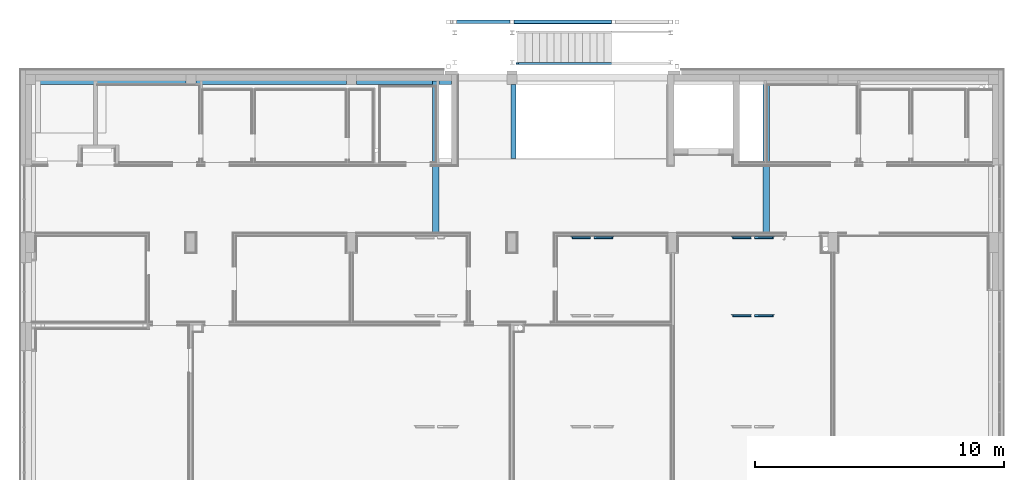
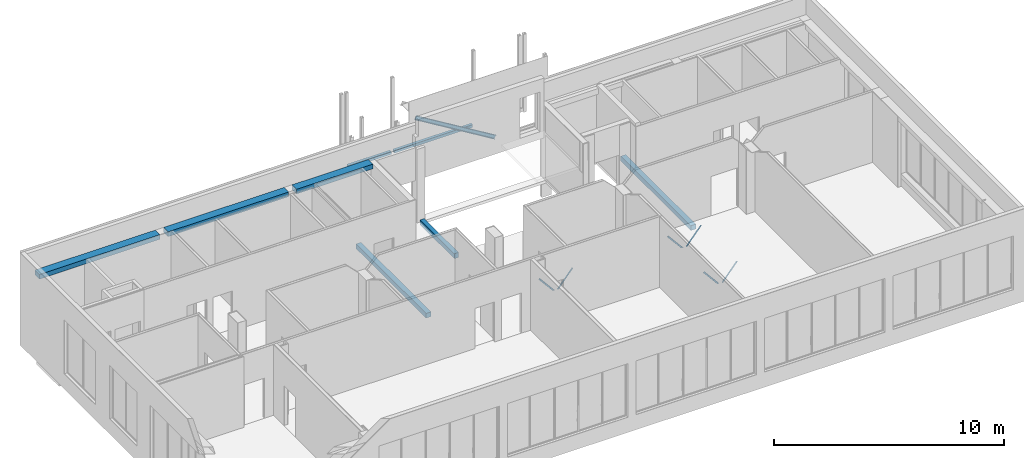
# One storey, part 9 of 29: 16 beams.
"""IFC2X3 building model written with IfcOpenShell, lengths in centimetres."""

from ifc_helpers import new_model, entity, si_unit, converted_unit, derived_unit, direction, frame, frame_2d, origin, origin_2d_with_axis, place, context, subcontext, project, spatial, polyline, circle_curve, parameter, trimmed, segment, composite_curve, rectangle, outline, extrude, clip, halfspace, material, type_object, element, save


model = new_model("IFC2X3")

# Units and contexts
model_context = context("Model", 3, precision=0.001, world=origin(), true_north=direction((6.12303176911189e-17, 1.0)))
body_context = subcontext(model_context, "Body", "Model", "MODEL_VIEW")
ifc_project = project(units=[si_unit("LENGTHUNIT", "METRE", prefix="CENTI"), si_unit("AREAUNIT", "SQUARE_METRE"), si_unit("VOLUMEUNIT", "CUBIC_METRE"), converted_unit("PLANEANGLEUNIT", "DEGREE", entity("IfcRatioMeasure", 0.0174532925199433), si_unit("PLANEANGLEUNIT", "RADIAN"), dimensions=[0, 0, 0, 0, 0, 0, 0]), si_unit("MASSUNIT", "GRAM", prefix="KILO"), derived_unit("MASSDENSITYUNIT", [(si_unit("MASSUNIT", "GRAM", prefix="KILO"), 1), (si_unit("LENGTHUNIT", "METRE"), -3)]), derived_unit("MOMENTOFINERTIAUNIT", [(si_unit("LENGTHUNIT", "METRE"), 4)]), si_unit("TIMEUNIT", "SECOND"), si_unit("FREQUENCYUNIT", "HERTZ"), si_unit("THERMODYNAMICTEMPERATUREUNIT", "DEGREE_CELSIUS"), derived_unit("THERMALTRANSMITTANCEUNIT", [(si_unit("MASSUNIT", "GRAM", prefix="KILO"), 1), (si_unit("THERMODYNAMICTEMPERATUREUNIT", "KELVIN"), -1), (si_unit("TIMEUNIT", "SECOND"), -3)]), derived_unit("VOLUMETRICFLOWRATEUNIT", [(si_unit("LENGTHUNIT", "METRE"), 3), (si_unit("TIMEUNIT", "SECOND"), -1)]), si_unit("ELECTRICCURRENTUNIT", "AMPERE"), si_unit("ELECTRICVOLTAGEUNIT", "VOLT"), si_unit("POWERUNIT", "WATT"), si_unit("FORCEUNIT", "NEWTON", prefix="KILO"), si_unit("ILLUMINANCEUNIT", "LUX"), si_unit("LUMINOUSFLUXUNIT", "LUMEN"), si_unit("LUMINOUSINTENSITYUNIT", "CANDELA"), derived_unit("USERDEFINED", [(si_unit("MASSUNIT", "GRAM", prefix="KILO"), -1), (si_unit("LENGTHUNIT", "METRE"), -2), (si_unit("TIMEUNIT", "SECOND"), 3), (si_unit("LUMINOUSFLUXUNIT", "LUMEN"), 1)]), derived_unit("LINEARVELOCITYUNIT", [(si_unit("LENGTHUNIT", "METRE"), 1), (si_unit("TIMEUNIT", "SECOND"), -1)]), si_unit("PRESSUREUNIT", "PASCAL"), derived_unit("USERDEFINED", [(si_unit("LENGTHUNIT", "METRE"), -2), (si_unit("MASSUNIT", "GRAM", prefix="KILO"), 1), (si_unit("TIMEUNIT", "SECOND"), -2)]), derived_unit("LINEARFORCEUNIT", [(si_unit("MASSUNIT", "GRAM", prefix="KILO"), 1), (si_unit("LENGTHUNIT", "METRE"), 1), (si_unit("TIMEUNIT", "SECOND"), -2), (si_unit("LENGTHUNIT", "METRE"), -1)]), derived_unit("PLANARFORCEUNIT", [(si_unit("MASSUNIT", "GRAM", prefix="KILO"), 1), (si_unit("LENGTHUNIT", "METRE"), 1), (si_unit("TIMEUNIT", "SECOND"), -2), (si_unit("LENGTHUNIT", "METRE"), -2)])], contexts=[model_context])

# Site, building, storey
site_placement = place(None, origin())
site = spatial("IfcSite", under=ifc_project, at=site_placement, Name="Default", CompositionType="ELEMENT")
building_placement = place(site_placement, origin())
building = spatial("IfcBuilding", under=site, at=building_placement, CompositionType="ELEMENT")
storey_placement = place(building_placement, frame((0.0, 0.0, 545.0)))
storey = spatial("IfcBuildingStorey", under=building, at=storey_placement, Name="Poziom 1K +5,45", CompositionType="ELEMENT", Elevation=544.999999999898)

# Beams
ifc_material_1 = material(Name="_Beton C30/37")
beam_type_1 = type_object("IfcBeamType", Name="Beton-belka prostokątna:BELKA 40x30", PredefinedType="NOTDEFINED")
beam_1_placement = place(storey_placement, frame((-2894.26510369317, 2085.12745208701, 380.0)))
element("IfcBeam", 1, at=beam_1_placement, inside=storey, type_object=beam_type_1, material=ifc_material_1, Name="Beton-belka prostokątna:BELKA 40x30", ObjectType="Beton-belka prostokątna:BELKA 40x30", context=body_context, shape_type="SweptSolid", body=[
    extrude(rectangle(XDim=25.0000000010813, YDim=40.0000000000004, at=frame_2d((-5.41788836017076e-14, -4.33431068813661e-13), x_axis=(1.0, 0.0))), frame((0.0, 0.0, -2.49999999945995), z_axis=(1.0, 0.0, 0.0), x_axis=(0.0, 0.0, -1.0)), (0.0, 0.0, 1.0), 604.999994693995),
])
beam_2_placement = place(storey_placement, frame((-2269.26510611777, 2085.127452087, 380.0)))
element("IfcBeam", 2, at=beam_2_placement, inside=storey, type_object=beam_type_1, material=ifc_material_1, Name="Beton-belka prostokątna:BELKA 40x30", ObjectType="Beton-belka prostokątna:BELKA 40x30", context=body_context, shape_type="SweptSolid", body=[
    extrude(rectangle(XDim=25.0000000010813, YDim=40.0000000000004, at=frame_2d((-5.41788836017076e-14, -4.33431068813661e-13), x_axis=(1.0, 0.0))), frame((19.9999971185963, 0.0, -2.49999999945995), z_axis=(1.0, 0.0, 0.0), x_axis=(0.0, 0.0, -1.0)), (0.0, 0.0, 1.0), 605.000000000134),
])
beam_3_placement = place(storey_placement, frame((-1624.26510611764, 2085.127452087, 380.0)))
element("IfcBeam", 3, at=beam_3_placement, inside=storey, type_object=beam_type_1, material=ifc_material_1, Name="Beton-belka prostokątna:BELKA 40x30", ObjectType="Beton-belka prostokątna:BELKA 40x30", context=body_context, shape_type="SweptSolid", body=[
    extrude(rectangle(XDim=25.0000000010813, YDim=40.0000000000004, at=frame_2d((-5.41788836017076e-14, -4.33431068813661e-13), x_axis=(1.0, 0.0))), frame((19.9999971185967, 0.0, -2.49999999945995), z_axis=(1.0, 0.0, 0.0), x_axis=(0.0, 0.0, -1.0)), (0.0, 0.0, 1.0), 382.50001546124),
])
beam_type_2 = type_object("IfcBeamType", Name="Beton-belka prostokątna:BELKA 25x40", PredefinedType="NOTDEFINED")
beam_4_placement = place(storey_placement, frame((-1272.76510455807, 2092.62745206, 0.0), z_axis=(0.0, 0.0, 1.0), x_axis=(0.0, -1.0, 0.0)))
element("IfcBeam", 4, at=beam_4_placement, inside=storey, type_object=beam_type_2, material=ifc_material_1, Name="Beton-belka prostokątna:BELKA 25x40", ObjectType="Beton-belka prostokątna:BELKA 25x40", context=body_context, shape_type="SweptSolid", body=[
    extrude(rectangle(XDim=24.9999999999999, YDim=25.0000000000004, at=origin_2d_with_axis()), frame((13.7700000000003, -12.5, -27.5), z_axis=(1.0, 0.0, 0.0), x_axis=(0.0, 0.0, -1.0)), (0.0, 0.0, 1.0), 608.729999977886),
])
beam_5_placement = place(storey_placement, frame((57.2348954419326, 2092.62745061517, 0.0), z_axis=(0.0, 0.0, 1.0), x_axis=(0.0, -1.0, 0.0)))
element("IfcBeam", 5, at=beam_5_placement, inside=storey, type_object=beam_type_2, material=ifc_material_1, Name="Beton-belka prostokątna:BELKA 25x40", ObjectType="Beton-belka prostokątna:BELKA 25x40", context=body_context, shape_type="SweptSolid", body=[
    extrude(rectangle(XDim=24.9999999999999, YDim=25.0000000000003, at=origin_2d_with_axis()), frame((12.4999999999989, -14.500006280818, -27.5), z_axis=(1.0, 0.0, 0.0), x_axis=(0.0, 0.0, -1.0)), (0.0, 0.0, 1.0), 609.99999853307),
])
ifc_material_2 = material(Name="Stal konstrukcyjna - S235")
beam_type_3 = type_object("IfcBeamType", Name="Równoramienne L:L80x8", PredefinedType="NOTDEFINED")
beam_6_placement = place(storey_placement, frame((-92.5326190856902, 1138.86744980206, -13.5446969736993), z_axis=(0.765076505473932, 0.0, 0.64393939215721), x_axis=(0.64393939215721, 0.0, -0.765076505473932)))
element("IfcBeam", 6, at=beam_6_placement, inside=storey, type_object=beam_type_3, material=ifc_material_2, Name="Równoramienne L:L80x8", ObjectType="Równoramienne L:L80x8", context=body_context, shape_type="SweptSolid", body=[
    clip(extrude(outline(composite_curve([segment(polyline([(-3.02222222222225, -4.97777777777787), (-2.72222222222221, -4.97777777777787)]), True, "CONTINUOUS"), segment(trimmed(circle_curve(frame_2d((-2.72222222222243, -4.47777777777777), x_axis=(0.0, -1.0)), 0.500000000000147), [parameter(0.0)], [parameter(89.9999999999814)], True, "PARAMETER"), True, "CONTINUOUS"), segment(polyline([(-2.22222222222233, -4.47777777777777), (-2.22222222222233, 1.22222222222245)]), True, "CONTINUOUS"), segment(trimmed(circle_curve(frame_2d((-1.22222222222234, 1.22222222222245), x_axis=(-1.0, 0.0)), 0.999999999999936), [parameter(269.999999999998)], [parameter(0.0)], True, "PARAMETER"), False, "CONTINUOUS"), segment(polyline([(-1.22222222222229, 2.22222222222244), (4.47777777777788, 2.22222222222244)]), True, "CONTINUOUS"), segment(trimmed(circle_curve(frame_2d((4.47777777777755, 2.72222222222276), x_axis=(0.0, -1.0)), 0.500000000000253), [parameter(0.0)], [parameter(89.9999999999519)], True, "PARAMETER"), True, "CONTINUOUS"), segment(polyline([(4.97777777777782, 2.72222222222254), (4.97777777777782, 3.02222222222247)]), True, "CONTINUOUS"), segment(polyline([(4.97777777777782, 3.02222222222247), (-3.02222222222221, 3.02222222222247)]), True, "CONTINUOUS"), segment(polyline([(-3.02222222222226, 3.02222222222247), (-3.02222222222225, -4.97777777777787)]), True, "CONTINUOUS")], self_intersect=False)), frame((0.00135307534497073, -0.76222222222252, -3.0222222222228), z_axis=(1.0, 0.0, 0.0), x_axis=(0.0, 0.0, -1.0)), (0.0, 0.0, 1.0), 114.44), halfspace(frame((117.712807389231, -845.739997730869, 0.937976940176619), z_axis=(0.765076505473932, 0.0, -0.64393939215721), x_axis=(0.0, 1.0, 0.0)), False)),
])
beam_7_placement = place(storey_placement, frame((-737.532637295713, 1451.86745207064, -13.5446969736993), z_axis=(0.765076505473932, 0.0, 0.64393939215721), x_axis=(0.64393939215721, 0.0, -0.765076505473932)))
element("IfcBeam", 7, at=beam_7_placement, inside=storey, type_object=beam_type_3, material=ifc_material_2, Name="Równoramienne L:L80x8", ObjectType="Równoramienne L:L80x8", context=body_context, shape_type="SweptSolid", body=[
    clip(extrude(outline(composite_curve([segment(polyline([(-3.02222222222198, -4.97777777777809), (-2.72222222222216, -4.97777777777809)]), True, "CONTINUOUS"), segment(trimmed(circle_curve(frame_2d((-2.72222222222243, -4.47777777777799), x_axis=(0.0, -1.0)), 0.500000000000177), [parameter(0.0)], [parameter(89.9999999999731)], True, "PARAMETER"), True, "CONTINUOUS"), segment(polyline([(-2.22222222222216, -4.47777777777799), (-2.22222222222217, 1.22222222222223)]), True, "CONTINUOUS"), segment(trimmed(circle_curve(frame_2d((-1.22222222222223, 1.22222222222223), x_axis=(-1.0, 0.0)), 0.999999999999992), [parameter(270.0)], [parameter(0.0)], True, "PARAMETER"), False, "CONTINUOUS"), segment(polyline([(-1.22222222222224, 2.22222222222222), (4.47777777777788, 2.22222222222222)]), True, "CONTINUOUS"), segment(trimmed(circle_curve(frame_2d((4.47777777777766, 2.72222222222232), x_axis=(0.0, -1.0)), 0.500000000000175), [parameter(0.0)], [parameter(89.9999999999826)], True, "PARAMETER"), True, "CONTINUOUS"), segment(polyline([(4.97777777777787, 2.72222222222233), (4.97777777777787, 3.02222222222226)]), True, "CONTINUOUS"), segment(polyline([(4.97777777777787, 3.02222222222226), (-3.02222222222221, 3.02222222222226)]), True, "CONTINUOUS"), segment(polyline([(-3.02222222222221, 3.02222222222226), (-3.0222222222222, -4.97777777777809)]), True, "CONTINUOUS")], self_intersect=False)), frame((0.00135307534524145, -0.762222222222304, -3.02222222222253), z_axis=(1.0, 0.0, 0.0), x_axis=(0.0, 0.0, -1.0)), (0.0, 0.0, 1.0), 114.44), halfspace(frame((117.712807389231, -1158.73999999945, 0.937976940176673), z_axis=(0.765076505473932, 0.0, -0.64393939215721), x_axis=(0.0, 1.0, 0.0)), False)),
])
beam_8_placement = place(storey_placement, frame((-92.5326190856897, 1451.86745207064, -13.5446969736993), z_axis=(0.765076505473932, 0.0, 0.64393939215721), x_axis=(0.64393939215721, 0.0, -0.765076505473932)))
element("IfcBeam", 8, at=beam_8_placement, inside=storey, type_object=beam_type_3, material=ifc_material_2, Name="Równoramienne L:L80x8", ObjectType="Równoramienne L:L80x8", context=body_context, shape_type="SweptSolid", body=[
    clip(extrude(outline(composite_curve([segment(polyline([(-3.02222222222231, -4.97777777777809), (-2.72222222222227, -4.97777777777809)]), True, "CONTINUOUS"), segment(trimmed(circle_curve(frame_2d((-2.72222222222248, -4.47777777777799), x_axis=(0.0, -1.0)), 0.500000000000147), [parameter(0.0)], [parameter(89.9999999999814)], True, "PARAMETER"), True, "CONTINUOUS"), segment(polyline([(-2.22222222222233, -4.47777777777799), (-2.22222222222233, 1.22222222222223)]), True, "CONTINUOUS"), segment(trimmed(circle_curve(frame_2d((-1.2222222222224, 1.22222222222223), x_axis=(-1.0, 0.0)), 0.999999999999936), [parameter(269.999999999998)], [parameter(0.0)], True, "PARAMETER"), False, "CONTINUOUS"), segment(polyline([(-1.22222222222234, 2.22222222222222), (4.47777777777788, 2.22222222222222)]), True, "CONTINUOUS"), segment(trimmed(circle_curve(frame_2d((4.4777777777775, 2.72222222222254), x_axis=(0.0, -1.0)), 0.500000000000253), [parameter(0.0)], [parameter(89.9999999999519)], True, "PARAMETER"), True, "CONTINUOUS"), segment(polyline([(4.97777777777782, 2.72222222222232), (4.97777777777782, 3.02222222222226)]), True, "CONTINUOUS"), segment(polyline([(4.97777777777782, 3.02222222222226), (-3.02222222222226, 3.02222222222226)]), True, "CONTINUOUS"), segment(polyline([(-3.02222222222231, 3.02222222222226), (-3.02222222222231, -4.97777777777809)]), True, "CONTINUOUS")], self_intersect=False)), frame((0.00135307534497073, -0.762222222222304, -3.0222222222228), z_axis=(1.0, 0.0, 0.0), x_axis=(0.0, 0.0, -1.0)), (0.0, 0.0, 1.0), 114.44), halfspace(frame((117.712807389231, -1158.73999999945, 0.937976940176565), z_axis=(0.765076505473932, 0.0, -0.64393939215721), x_axis=(0.0, 1.0, 0.0)), False)),
])
beam_9_placement = place(storey_placement, frame((69.0024564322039, 1138.62765760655, -13.5446969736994), z_axis=(0.765076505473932, 0.0, -0.64393939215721), x_axis=(-0.64393939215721, 0.0, -0.765076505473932)))
element("IfcBeam", 9, at=beam_9_placement, inside=storey, type_object=beam_type_3, material=ifc_material_2, Name="Równoramienne L:L80x8", ObjectType="Równoramienne L:L80x8", context=body_context, shape_type="SweptSolid", body=[
    clip(extrude(outline(composite_curve([segment(polyline([(2.72222222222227, -4.97777777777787), (3.0222222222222, -4.97777777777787)]), True, "CONTINUOUS"), segment(polyline([(3.02222222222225, -4.97777777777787), (3.02222222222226, 3.02222222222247)]), True, "CONTINUOUS"), segment(polyline([(3.02222222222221, 3.02222222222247), (-4.97777777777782, 3.02222222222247)]), True, "CONTINUOUS"), segment(polyline([(-4.97777777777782, 3.02222222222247), (-4.97777777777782, 2.72222222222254)]), True, "CONTINUOUS"), segment(trimmed(circle_curve(frame_2d((-4.4777777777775, 2.72222222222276), x_axis=(-1.0, 0.0)), 0.500000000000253), [parameter(0.0)], [parameter(89.9999999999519)], True, "PARAMETER"), True, "CONTINUOUS"), segment(polyline([(-4.47777777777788, 2.22222222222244), (1.22222222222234, 2.22222222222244)]), True, "CONTINUOUS"), segment(trimmed(circle_curve(frame_2d((1.2222222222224, 1.22222222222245), x_axis=(0.0, 1.0)), 0.999999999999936), [parameter(269.999999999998)], [parameter(0.0)], True, "PARAMETER"), False, "CONTINUOUS"), segment(polyline([(2.22222222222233, 1.22222222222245), (2.22222222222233, -4.47777777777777)]), True, "CONTINUOUS"), segment(trimmed(circle_curve(frame_2d((2.72222222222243, -4.47777777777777), x_axis=(-1.0, 0.0)), 0.500000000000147), [parameter(0.0)], [parameter(89.9999999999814)], True, "PARAMETER"), True, "CONTINUOUS")], self_intersect=False)), frame((0.00135307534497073, -0.76222222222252, 3.0222222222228), z_axis=(1.0, 0.0, 0.0), x_axis=(0.0, 0.0, -1.0)), (0.0, 0.0, 1.0), 114.44), halfspace(frame((109.985534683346, -845.500205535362, 8.24294112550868), z_axis=(0.765076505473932, 0.0, 0.64393939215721), x_axis=(0.0, 1.0, 0.0)), False)),
])
beam_10_placement = place(storey_placement, frame((69.0024564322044, 1451.86745207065, -13.5446969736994), z_axis=(0.765076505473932, 0.0, -0.64393939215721), x_axis=(-0.64393939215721, 0.0, -0.765076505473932)))
element("IfcBeam", 10, at=beam_10_placement, inside=storey, type_object=beam_type_3, material=ifc_material_2, Name="Równoramienne L:L80x8", ObjectType="Równoramienne L:L80x8", context=body_context, shape_type="SweptSolid", body=[
    extrude(outline(composite_curve([segment(polyline([(2.72222222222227, -4.97777777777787), (3.0222222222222, -4.97777777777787)]), True, "CONTINUOUS"), segment(polyline([(3.02222222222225, -4.97777777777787), (3.02222222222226, 3.02222222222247)]), True, "CONTINUOUS"), segment(polyline([(3.02222222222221, 3.02222222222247), (-4.97777777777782, 3.02222222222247)]), True, "CONTINUOUS"), segment(polyline([(-4.97777777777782, 3.02222222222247), (-4.97777777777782, 2.72222222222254)]), True, "CONTINUOUS"), segment(trimmed(circle_curve(frame_2d((-4.4777777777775, 2.72222222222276), x_axis=(-1.0, 0.0)), 0.500000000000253), [parameter(0.0)], [parameter(89.9999999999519)], True, "PARAMETER"), True, "CONTINUOUS"), segment(polyline([(-4.47777777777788, 2.22222222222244), (1.22222222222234, 2.22222222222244)]), True, "CONTINUOUS"), segment(trimmed(circle_curve(frame_2d((1.2222222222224, 1.22222222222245), x_axis=(0.0, 1.0)), 0.999999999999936), [parameter(269.999999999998)], [parameter(0.0)], True, "PARAMETER"), False, "CONTINUOUS"), segment(polyline([(2.22222222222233, 1.22222222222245), (2.22222222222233, -4.47777777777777)]), True, "CONTINUOUS"), segment(trimmed(circle_curve(frame_2d((2.72222222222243, -4.47777777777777), x_axis=(-1.0, 0.0)), 0.500000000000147), [parameter(0.0)], [parameter(89.9999999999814)], True, "PARAMETER"), True, "CONTINUOUS")], self_intersect=False)), frame((0.00135307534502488, -0.76222222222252, 3.0222222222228), z_axis=(1.0, 0.0, 0.0), x_axis=(0.0, 0.0, -1.0)), (0.0, 0.0, 1.0), 114.44),
])
beam_11_placement = place(storey_placement, frame((69.0024564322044, 1451.86745207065, -13.5446969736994), z_axis=(0.765076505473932, 0.0, -0.64393939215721), x_axis=(-0.64393939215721, 0.0, -0.765076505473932)))
element("IfcBeam", 11, at=beam_11_placement, inside=storey, type_object=beam_type_3, material=ifc_material_2, Name="Równoramienne L:L80x8", ObjectType="Równoramienne L:L80x8", context=body_context, shape_type="SweptSolid", body=[
    clip(extrude(outline(composite_curve([segment(polyline([(2.72222222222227, -4.97777777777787), (3.0222222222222, -4.97777777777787)]), True, "CONTINUOUS"), segment(polyline([(3.02222222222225, -4.97777777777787), (3.02222222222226, 3.02222222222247)]), True, "CONTINUOUS"), segment(polyline([(3.02222222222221, 3.02222222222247), (-4.97777777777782, 3.02222222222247)]), True, "CONTINUOUS"), segment(polyline([(-4.97777777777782, 3.02222222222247), (-4.97777777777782, 2.72222222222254)]), True, "CONTINUOUS"), segment(trimmed(circle_curve(frame_2d((-4.4777777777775, 2.72222222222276), x_axis=(-1.0, 0.0)), 0.500000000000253), [parameter(0.0)], [parameter(89.9999999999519)], True, "PARAMETER"), True, "CONTINUOUS"), segment(polyline([(-4.47777777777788, 2.22222222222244), (1.22222222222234, 2.22222222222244)]), True, "CONTINUOUS"), segment(trimmed(circle_curve(frame_2d((1.2222222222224, 1.22222222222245), x_axis=(0.0, 1.0)), 0.999999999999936), [parameter(269.999999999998)], [parameter(0.0)], True, "PARAMETER"), False, "CONTINUOUS"), segment(polyline([(2.22222222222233, 1.22222222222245), (2.22222222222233, -4.47777777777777)]), True, "CONTINUOUS"), segment(trimmed(circle_curve(frame_2d((2.72222222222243, -4.47777777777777), x_axis=(-1.0, 0.0)), 0.500000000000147), [parameter(0.0)], [parameter(89.9999999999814)], True, "PARAMETER"), True, "CONTINUOUS")], self_intersect=False)), frame((0.00135307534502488, -0.76222222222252, 3.0222222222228), z_axis=(1.0, 0.0, 0.0), x_axis=(0.0, 0.0, -1.0)), (0.0, 0.0, 1.0), 114.44), halfspace(frame((109.985534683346, -1158.73999999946, 8.24294112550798), z_axis=(0.765076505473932, 0.0, 0.64393939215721), x_axis=(0.0, 1.0, 0.0)), False)),
])
beam_12_placement = place(storey_placement, frame((-575.997561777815, 1451.86745207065, -13.5446969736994), z_axis=(0.765076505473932, 0.0, -0.64393939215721), x_axis=(-0.64393939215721, 0.0, -0.765076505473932)))
element("IfcBeam", 12, at=beam_12_placement, inside=storey, type_object=beam_type_3, material=ifc_material_2, Name="Równoramienne L:L80x8", ObjectType="Równoramienne L:L80x8", context=body_context, shape_type="SweptSolid", body=[
    clip(extrude(outline(composite_curve([segment(polyline([(2.72222222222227, -4.97777777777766), (3.0222222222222, -4.97777777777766)]), True, "CONTINUOUS"), segment(polyline([(3.02222222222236, -4.97777777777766), (3.02222222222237, 3.02222222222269)]), True, "CONTINUOUS"), segment(polyline([(3.02222222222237, 3.02222222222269), (-4.97777777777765, 3.02222222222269)]), True, "CONTINUOUS"), segment(polyline([(-4.97777777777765, 3.02222222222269), (-4.97777777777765, 2.72222222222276)]), True, "CONTINUOUS"), segment(trimmed(circle_curve(frame_2d((-4.47777777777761, 2.72222222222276), x_axis=(-1.0, 0.0)), 0.500000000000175), [parameter(0.0)], [parameter(89.9999999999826)], True, "PARAMETER"), True, "CONTINUOUS"), segment(polyline([(-4.47777777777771, 2.22222222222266), (1.22222222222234, 2.22222222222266)]), True, "CONTINUOUS"), segment(trimmed(circle_curve(frame_2d((1.22222222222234, 1.22222222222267), x_axis=(0.0, 1.0)), 0.999999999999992), [parameter(270.0)], [parameter(0.0)], True, "PARAMETER"), False, "CONTINUOUS"), segment(polyline([(2.22222222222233, 1.22222222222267), (2.22222222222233, -4.47777777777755)]), True, "CONTINUOUS"), segment(trimmed(circle_curve(frame_2d((2.72222222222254, -4.47777777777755), x_axis=(-1.0, 0.0)), 0.500000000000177), [parameter(0.0)], [parameter(89.9999999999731)], True, "PARAMETER"), True, "CONTINUOUS")], self_intersect=False)), frame((0.00135307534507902, -0.762222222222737, 3.02222222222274), z_axis=(1.0, 0.0, 0.0), x_axis=(0.0, 0.0, -1.0)), (0.0, 0.0, 1.0), 114.44), halfspace(frame((109.985534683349, -1158.73999999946, 8.24294112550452), z_axis=(0.765076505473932, 0.0, 0.64393939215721), x_axis=(0.0, 1.0, 0.0)), False)),
])
beam_type_4 = type_object("IfcBeamType", Name="Beton-belka prostokątna:BELKA 21x34", PredefinedType="NOTDEFINED")
beam_13_placement = place(storey_placement, frame((-959.265087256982, 2065.1274520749, 17.0), z_axis=(0.0, 0.0, 1.0), x_axis=(0.0, -1.0, 0.0)))
element("IfcBeam", 13, at=beam_13_placement, inside=storey, type_object=beam_type_4, material=ifc_material_1, Name="Beton-belka prostokątna:BELKA 21x34", ObjectType="Beton-belka prostokątna:BELKA 21x34", context=body_context, shape_type="SweptSolid", body=[
    extrude(rectangle(XDim=26.0, YDim=21.0000000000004, at=frame_2d((5.41788836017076e-14, 0.0), x_axis=(1.0, 0.0))), frame((0.0, -14.500006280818, -19.0), z_axis=(1.0, 0.0, 0.0), x_axis=(0.0, 0.0, -1.0)), (0.0, 0.0, 1.0), 297.0),
])
beam_type_5 = type_object("IfcBeamType", Name="STAL RK - Ksztaltowniki zamkniete kwadratowe:RK150x6", PredefinedType="NOTDEFINED")
beam_14_placement = place(storey_placement, frame((-573.072174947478, 2317.08692648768, 211.0), z_axis=(0.0, 0.0, 1.0), x_axis=(-1.0, 0.0, 0.0)))
element("IfcBeam", 14, at=beam_14_placement, inside=storey, type_object=beam_type_5, material=ifc_material_2, Name="STAL RK - Ksztaltowniki zamkniete kwadratowe:RK150x6", ObjectType="STAL RK - Ksztaltowniki zamkniete kwadratowe:RK150x6", context=body_context, shape_type="SweptSolid", body=[
    extrude(outline(composite_curve([segment(trimmed(circle_curve(frame_2d((-6.29999999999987, -6.30000000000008), x_axis=(1.0, 0.0)), 1.2), [parameter(180.0)], [parameter(270.0)], True, "PARAMETER"), True, "CONTINUOUS"), segment(polyline([(-6.29999999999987, -7.50000000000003), (6.29999999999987, -7.50000000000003)]), True, "CONTINUOUS"), segment(trimmed(circle_curve(frame_2d((6.3000000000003, -6.30000000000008), x_axis=(1.0, 0.0)), 1.19999999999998), [parameter(270.0)], [parameter(360.0)], True, "PARAMETER"), True, "CONTINUOUS"), segment(polyline([(7.50000000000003, -6.30000000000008), (7.50000000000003, 6.29999999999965)]), True, "CONTINUOUS"), segment(trimmed(circle_curve(frame_2d((6.29999999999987, 6.29999999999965), x_axis=(1.0, 0.0)), 1.20000000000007), [parameter(360.0)], [parameter(89.9999999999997)], True, "PARAMETER"), True, "CONTINUOUS"), segment(polyline([(6.29999999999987, 7.4999999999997), (-6.30000000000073, 7.4999999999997)]), True, "CONTINUOUS"), segment(trimmed(circle_curve(frame_2d((-6.30000000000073, 6.30000000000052), x_axis=(1.0, 0.0)), 1.19999999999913), [parameter(89.9999999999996)], [parameter(179.999999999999)], True, "PARAMETER"), True, "CONTINUOUS"), segment(polyline([(-7.50000000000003, 6.30000000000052), (-7.50000000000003, -6.30000000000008)]), True, "CONTINUOUS")], self_intersect=False), holes=[composite_curve([segment(polyline([(-6.90000000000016, -6.30000000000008), (-6.90000000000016, 6.30000000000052)]), True, "CONTINUOUS"), segment(trimmed(circle_curve(frame_2d((-6.30000000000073, 6.30000000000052), x_axis=(1.0, 0.0)), 0.59999999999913), [parameter(90.0000000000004)], [parameter(180.0)], True, "PARAMETER"), False, "CONTINUOUS"), segment(polyline([(-6.30000000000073, 6.89999999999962), (6.29999999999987, 6.89999999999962)]), True, "CONTINUOUS"), segment(trimmed(circle_curve(frame_2d((6.29999999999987, 6.29999999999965), x_axis=(1.0, 0.0)), 0.600000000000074), [parameter(4.07110999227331e-13)], [parameter(90.0000000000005)], True, "PARAMETER"), False, "CONTINUOUS"), segment(polyline([(6.90000000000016, 6.29999999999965), (6.90000000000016, -6.30000000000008)]), True, "CONTINUOUS"), segment(trimmed(circle_curve(frame_2d((6.3000000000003, -6.30000000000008), x_axis=(1.0, 0.0)), 0.59999999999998), [parameter(270.0)], [parameter(5.08888749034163e-13)], True, "PARAMETER"), False, "CONTINUOUS"), segment(polyline([(6.29999999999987, -6.90000000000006), (-6.29999999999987, -6.90000000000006)]), True, "CONTINUOUS"), segment(trimmed(circle_curve(frame_2d((-6.29999999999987, -6.30000000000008), x_axis=(1.0, 0.0)), 0.600000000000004), [parameter(180.0)], [parameter(270.0)], True, "PARAMETER"), False, "CONTINUOUS")], self_intersect=False)]), frame((6.20000000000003, -0.259999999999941, 7.49999999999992), z_axis=(1.0, 0.0, 0.0), x_axis=(0.0, -1.0, 0.0)), (0.0, 0.0, 1.0), 392.322134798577),
])
beam_15_placement = place(storey_placement, frame((-811.765115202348, 2317.18122868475, 211.0), z_axis=(0.0, 0.0, 1.0), x_axis=(-1.0, 0.0, 0.0)))
element("IfcBeam", 15, at=beam_15_placement, inside=storey, type_object=beam_type_5, material=ifc_material_2, Name="STAL RK - Ksztaltowniki zamkniete kwadratowe:RK150x6", ObjectType="STAL RK - Ksztaltowniki zamkniete kwadratowe:RK150x6", context=body_context, shape_type="SweptSolid", body=[
    extrude(outline(composite_curve([segment(trimmed(circle_curve(frame_2d((6.29999999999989, -6.29999999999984), x_axis=(1.0, 0.0)), 1.2), [parameter(270.0)], [parameter(359.999999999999)], True, "PARAMETER"), True, "CONTINUOUS"), segment(polyline([(7.49999999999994, -6.29999999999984), (7.4999999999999, 6.29999999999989)]), True, "CONTINUOUS"), segment(trimmed(circle_curve(frame_2d((6.29999999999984, 6.30000000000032), x_axis=(0.0, 1.0)), 1.19999999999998), [parameter(270.0)], [parameter(360.0)], True, "PARAMETER"), True, "CONTINUOUS"), segment(polyline([(6.29999999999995, 7.50000000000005), (-6.29999999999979, 7.5)]), True, "CONTINUOUS"), segment(trimmed(circle_curve(frame_2d((-6.29999999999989, 6.29999999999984), x_axis=(-1.0, 0.0)), 1.20000000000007), [parameter(270.0)], [parameter(0.0)], True, "PARAMETER"), True, "CONTINUOUS"), segment(polyline([(-7.49999999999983, 6.29999999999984), (-7.49999999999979, -6.30000000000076)]), True, "CONTINUOUS"), segment(trimmed(circle_curve(frame_2d((-6.30000000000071, -6.30000000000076), x_axis=(0.0, -1.0)), 1.19999999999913), [parameter(270.0)], [parameter(360.0)], True, "PARAMETER"), True, "CONTINUOUS"), segment(polyline([(-6.3000000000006, -7.50000000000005), (6.3, -7.5)]), True, "CONTINUOUS")], self_intersect=False), holes=[composite_curve([segment(polyline([(6.3, -6.90000000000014), (-6.3000000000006, -6.90000000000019)]), True, "CONTINUOUS"), segment(trimmed(circle_curve(frame_2d((-6.30000000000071, -6.30000000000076), x_axis=(-1.0, 0.0)), 0.59999999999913), [parameter(4.07110999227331e-13)], [parameter(90.0000000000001)], True, "PARAMETER"), False, "CONTINUOUS"), segment(polyline([(-6.89999999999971, -6.30000000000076), (-6.89999999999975, 6.29999999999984)]), True, "CONTINUOUS"), segment(trimmed(circle_curve(frame_2d((-6.29999999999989, 6.29999999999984), x_axis=(0.0, 1.0)), 0.600000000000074), [parameter(5.08888749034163e-14)], [parameter(90.0000000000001)], True, "PARAMETER"), False, "CONTINUOUS"), segment(polyline([(-6.29999999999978, 6.90000000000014), (6.29999999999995, 6.90000000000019)]), True, "CONTINUOUS"), segment(trimmed(circle_curve(frame_2d((6.29999999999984, 6.30000000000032), x_axis=(1.0, 0.0)), 0.59999999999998), [parameter(360.0)], [parameter(90.0000000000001)], True, "PARAMETER"), False, "CONTINUOUS"), segment(polyline([(6.89999999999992, 6.29999999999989), (6.89999999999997, -6.29999999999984)]), True, "CONTINUOUS"), segment(trimmed(circle_curve(frame_2d((6.29999999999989, -6.29999999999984), x_axis=(0.0, -1.0)), 0.600000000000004), [parameter(1.52666624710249e-13)], [parameter(90.0000000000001)], True, "PARAMETER"), False, "CONTINUOUS")], self_intersect=False)]), frame((174.859013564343, -0.259999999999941, 7.50000000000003), z_axis=(1.0, 0.0, 0.0), x_axis=(0.0, 0.0, 1.0)), (0.0, 0.0, 1.0), 215.070805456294),
])
beam_type_6 = type_object("IfcBeamType", Name="C:C200", PredefinedType="NOTDEFINED")
beam_16_placement = place(storey_placement, frame((-562.227580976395, 2151.43245315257, 240.523101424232), z_axis=(0.51886930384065, 0.0, 0.854853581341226), x_axis=(-0.854853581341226, 0.0, 0.51886930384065)))
element("IfcBeam", 16, at=beam_16_placement, inside=storey, type_object=beam_type_6, material=ifc_material_2, Name="C:C200", ObjectType="C:C200", context=body_context, shape_type="SweptSolid", body=[
    extrude(outline(composite_curve([segment(polyline([(-10.0, -4.11769627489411), (10.0, -4.11769627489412)]), True, "CONTINUOUS"), segment(polyline([(10.0, -4.11769627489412), (10.0, 3.38230372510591)]), True, "CONTINUOUS"), segment(polyline([(10.0, 3.38230372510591), (9.70369668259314, 3.38230372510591)]), True, "CONTINUOUS"), segment(trimmed(circle_curve(frame_2d((9.70369668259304, 2.78230372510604), x_axis=(0.0, 1.0)), 0.59999999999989), [parameter(0.0)], [parameter(85.4300000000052)], True, "PARAMETER"), True, "CONTINUOUS"), segment(polyline([(9.10560424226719, 2.83010992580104), (8.70279656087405, -2.20932482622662)]), True, "CONTINUOUS"), segment(trimmed(circle_curve(frame_2d((7.55645271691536, -2.11769627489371), x_axis=(0.996820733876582, -0.0796770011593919)), 1.15000000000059), [parameter(274.570000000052)], [parameter(0.0)], True, "PARAMETER"), False, "CONTINUOUS"), segment(polyline([(7.5564527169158, -3.26769627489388), (-7.55645271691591, -3.26769627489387)]), True, "CONTINUOUS"), segment(trimmed(circle_curve(frame_2d((-7.55645271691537, -2.1176962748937), x_axis=(0.0, -1.0)), 1.15000000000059), [parameter(274.570000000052)], [parameter(0.0)], True, "PARAMETER"), False, "CONTINUOUS"), segment(polyline([(-8.70279656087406, -2.20932482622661), (-9.10560424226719, 2.83010992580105)]), True, "CONTINUOUS"), segment(trimmed(circle_curve(frame_2d((-9.70369668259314, 2.78230372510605), x_axis=(0.996820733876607, 0.0796770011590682)), 0.599999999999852), [parameter(0.0)], [parameter(85.4300000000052)], True, "PARAMETER"), True, "CONTINUOUS"), segment(polyline([(-9.70369668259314, 3.38230372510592), (-10.0, 3.38230372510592)]), True, "CONTINUOUS"), segment(polyline([(-10.0, 3.38230372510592), (-10.0, -4.11769627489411)]), True, "CONTINUOUS")], self_intersect=False)), frame((0.656917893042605, 2.10769627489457, 10.0), z_axis=(1.0, 0.0, 0.0), x_axis=(0.0, 0.0, -1.0)), (0.0, 0.0, 1.0), 468.267691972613),
])

save(model, "model.ifc")
